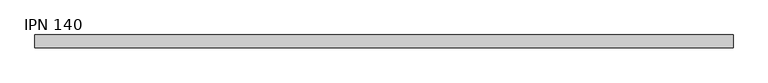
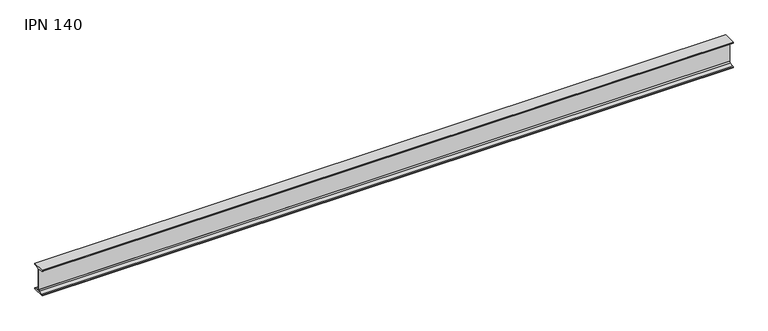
"""IFC4 building model written with IfcOpenShell, lengths in millimetres: beam geometry, IPN - Secciones en I con alas cónicas : IPN 140."""

from ifc_helpers import new_model, si_unit, point, frame, frame_2d, origin, place, context, project, spatial, polyline, circle_curve, trimmed, segment, composite_curve, outline, extrude, source, transform, mapped, element, save


def ipn_140_a066fb9f(model_context):
    return source(origin(), model_context, "Body", "SweptSolid", [
        extrude(outline(composite_curve([segment(polyline([(33.0, 70.0), (33.0, 66.6671583)]), True, "CONTINUOUS"), segment(trimmed(circle_curve(frame_2d((29.6, 66.6671583)), 3.4), [point((33.0, 66.6671583))], [point((30.0714027, 63.2999964))], False, "CARTESIAN"), True, "CONTINUOUS"), segment(polyline([(30.0714027, 63.2999964), (7.7597073, 60.176359)]), True, "CONTINUOUS"), segment(trimmed(circle_curve(frame_2d((8.55, 54.5314111)), 5.7), [point((7.7597073, 60.176359))], [point((2.85, 54.5314111))], True, "CARTESIAN"), True, "CONTINUOUS"), segment(polyline([(2.85, 54.5314111), (2.85, -54.5314111)]), True, "CONTINUOUS"), segment(trimmed(circle_curve(frame_2d((8.55, -54.5314111)), 5.7), [point((2.85, -54.5314111))], [point((7.7597073, -60.176359))], True, "CARTESIAN"), True, "CONTINUOUS"), segment(polyline([(7.7597073, -60.176359), (30.0714027, -63.2999964)]), True, "CONTINUOUS"), segment(trimmed(circle_curve(frame_2d((29.6, -66.6671583)), 3.4), [point((30.0714027, -63.2999964))], [point((33.0, -66.6671583))], False, "CARTESIAN"), True, "CONTINUOUS"), segment(polyline([(33.0, -66.6671583), (33.0, -70.0), (-33.0, -70.0), (-33.0, -66.6671583)]), True, "CONTINUOUS"), segment(trimmed(circle_curve(frame_2d((-29.6, -66.6671583)), 3.4), [point((-33.0, -66.6671583))], [point((-30.0714027, -63.2999964))], False, "CARTESIAN"), True, "CONTINUOUS"), segment(polyline([(-30.0714027, -63.2999964), (-7.7597073, -60.176359)]), True, "CONTINUOUS"), segment(trimmed(circle_curve(frame_2d((-8.55, -54.5314111)), 5.7), [point((-7.7597073, -60.176359))], [point((-2.85, -54.5314111))], True, "CARTESIAN"), True, "CONTINUOUS"), segment(polyline([(-2.85, -54.5314111), (-2.85, 54.5314111)]), True, "CONTINUOUS"), segment(trimmed(circle_curve(frame_2d((-8.55, 54.5314111)), 5.7), [point((-2.85, 54.5314111))], [point((-7.7597073, 60.176359))], True, "CARTESIAN"), True, "CONTINUOUS"), segment(polyline([(-7.7597073, 60.176359), (-30.0714027, 63.2999964)]), True, "CONTINUOUS"), segment(trimmed(circle_curve(frame_2d((-29.6, 66.6671583)), 3.4), [point((-30.0714027, 63.2999964))], [point((-33.0, 66.6671583))], False, "CARTESIAN"), True, "CONTINUOUS"), segment(polyline([(-33.0, 66.6671583), (-33.0, 70.0), (33.0, 70.0)]), True, "CONTINUOUS")], self_intersect=False)), frame((-1860.0, 0.0, 0.0), z_axis=(1.0, 0.0, 0.0), x_axis=(0.0, 1.0, 0.0)), (0.0, 0.0, 1.0), 3595.0),
    ])


if __name__ == "__main__":
    model = new_model("IFC4")
    model_context = context("Model", 3, world=origin())
    ifc_project = project(units=[si_unit("LENGTHUNIT", "METRE", prefix="MILLI")], contexts=[model_context])
    site = spatial("IfcSite", under=ifc_project)
    building = spatial("IfcBuilding", under=site)
    placement = place(None, origin())
    ipn_140_shape = ipn_140_a066fb9f(model_context)
    element("IfcBeam", 1, ObjectType="IPN - Secciones en I con alas cónicas : IPN 140", at=placement, inside=building, context=model_context, shape_type="MappedRepresentation", body=[
        mapped(ipn_140_shape, transform((0.0, 0.0, 0.0), x_axis=(1.0, 0.0, 0.0), y_axis=(0.0, 1.0, 0.0), z_axis=(0.0, 0.0, 1.0))),
    ])
    save(model, "model.ifc")
